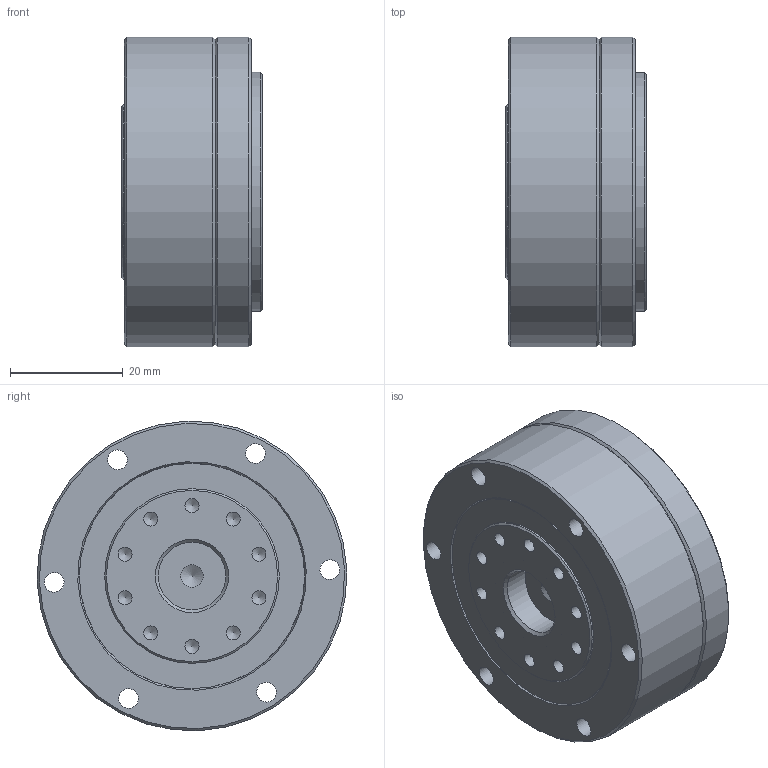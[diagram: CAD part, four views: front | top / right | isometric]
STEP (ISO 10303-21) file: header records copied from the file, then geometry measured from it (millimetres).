
FILE_DESCRIPTION (( 'STEP AP203' ), '1' );
FILE_NAME ('LCD-14-XXX-C-I-ST0.STEP', '2024-05-15T10:19:15', ( '' ), ( '' ), 'SwSTEP 2.0', 'SolidWorks 2023', '' );
FILE_SCHEMA (( 'CONFIG_CONTROL_DESIGN' ));
Length unit declared in the file: millimetre
Products named in the file (1): LCD-14-XXX-C-I-ST0
Bounding box: 25 x 54.94 x 54.94 mm (x, y, z)
Volume: 45113.2 mm3; surface area: 26952.1 mm2
Topology: 4 solids, 36 shells, 768 faces, 1914 edges, 1204 vertices
Faces by surface type: plane 392, cylinder 176, cone 109, torus 68, sphere 23
Full cylindrical faces by diameter (mm): 1.6 x7, 2 x3, 2.05 x2, 2.5 x30, 3 x9, 3.5 x19, 3.8 x7, 4.5 x3, 5.5 x9, 11 x2, 12 x1, 13 x2, 23 x1, 23.5 x1, 24.1 x1, 25.07 x1, 25.56 x1, 26 x1, 26.5 x1, 26.63 x2, 27.6 x1, 30 x1, 30.457 x1, 31 x2, 31.4 x1, 32.4 x2, 33.9 x1, 33.956 x1, 34.4 x2, 34.416 x1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
Entity records: 20303 total; most frequent: CARTESIAN_POINT 3891, DIRECTION 3614, ORIENTED_EDGE 2914, AXIS2_PLACEMENT_3D 1540, EDGE_CURVE 1457, EDGE_LOOP 1102, VERTEX_POINT 1021, FACE_OUTER_BOUND 942
